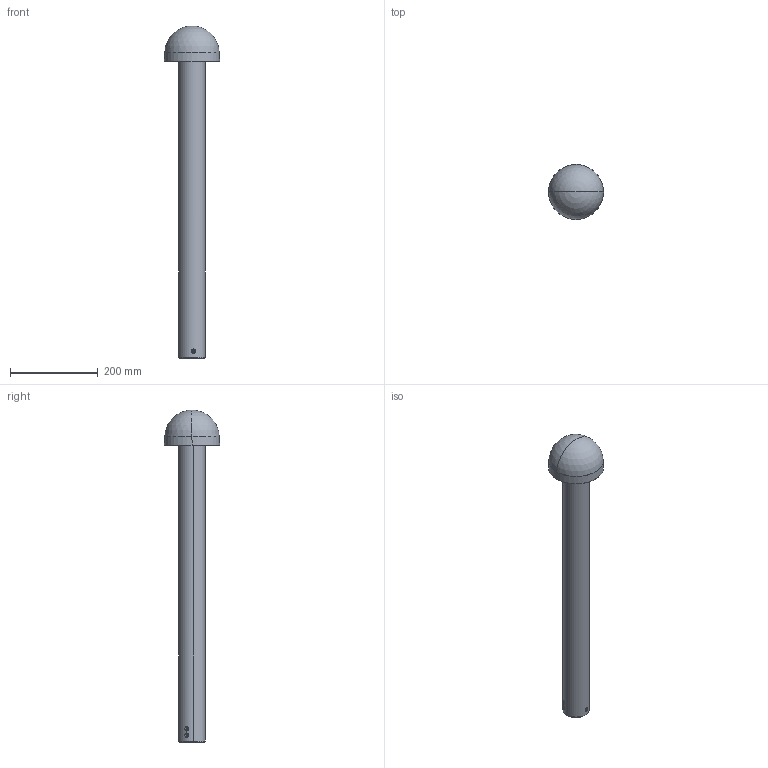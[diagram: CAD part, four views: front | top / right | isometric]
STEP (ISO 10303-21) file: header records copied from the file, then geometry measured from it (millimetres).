
FILE_DESCRIPTION((''),'2;1');
FILE_NAME('MUSHU-H700_SW0001','2025-05-26T17:03:50',('elena.baldelli'),(''),'CREO PARAMETRIC BY PTC INC, 2020354','CREO PARAMETRIC BY PTC INC, 2020354','');
FILE_SCHEMA(('CONFIG_CONTROL_DESIGN'));
Length unit declared in the file: millimetre
Products named in the file (1): MUSHU-H700_SW0001
Bounding box: 125.52 x 125.52 x 755.93 mm (x, y, z)
Surface area: 332768.4 mm2 (no closed solid volume)
Topology: 0 solids, 11 shells, 34 faces, 189 edges, 163 vertices
Faces by surface type: cone 10, plane 10, cylinder 10, sphere 4
Entity records: 2556 total; most frequent: CARTESIAN_POINT 1040, DIRECTION 314, ORIENTED_EDGE 229, EDGE_CURVE 185, VERTEX_POINT 163, AXIS2_PLACEMENT_3D 131, CIRCLE 97, EDGE_LOOP 67
